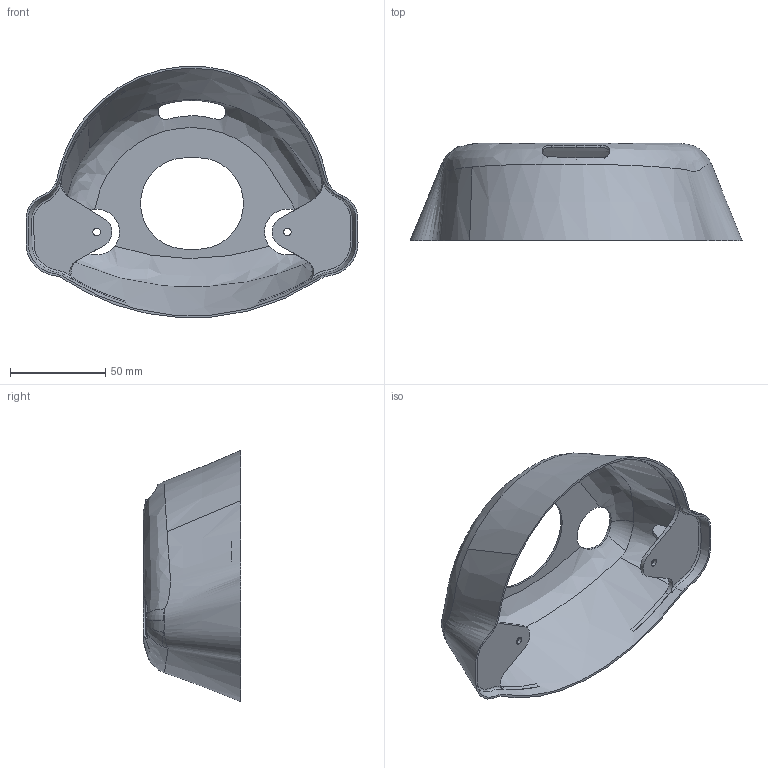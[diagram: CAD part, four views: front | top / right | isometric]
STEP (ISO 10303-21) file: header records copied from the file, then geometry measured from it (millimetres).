
FILE_DESCRIPTION (( 'STEP AP214' ), '1' );
FILE_NAME ('Nez avion Totof.STEP', '2025-11-08T09:24:27', ( '' ), ( '' ), 'SwSTEP 2.0', 'SolidWorks 2022', '' );
FILE_SCHEMA (( 'AUTOMOTIVE_DESIGN' ));
Length unit declared in the file: millimetre
Products named in the file (1): Nez avion Totof
Bounding box: 174.17 x 51 x 131.79 mm (x, y, z)
Volume: 36451.3 mm3; surface area: 61314.1 mm2
Topology: 1 solids, 1 shells, 77 faces, 261 edges, 183 vertices
Faces by surface type: bspline 30, plane 25, cylinder 22
Entity records: 27692 total; most frequent: CARTESIAN_POINT 25731, ORIENTED_EDGE 522, EDGE_CURVE 261, DIRECTION 238, VERTEX_POINT 183, B_SPLINE_CURVE_WITH_KNOTS 162, AXIS2_PLACEMENT_3D 91, EDGE_LOOP 86
